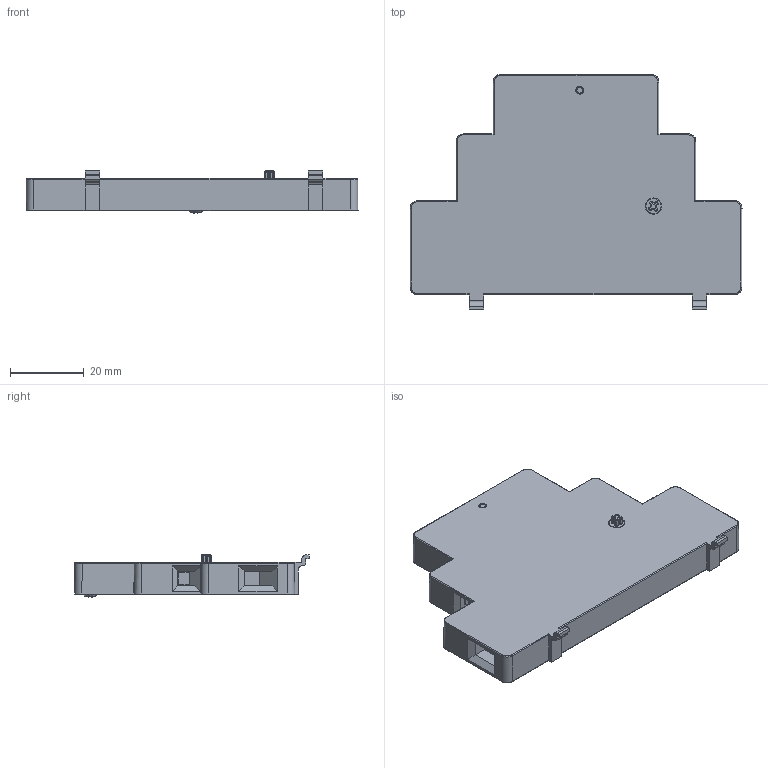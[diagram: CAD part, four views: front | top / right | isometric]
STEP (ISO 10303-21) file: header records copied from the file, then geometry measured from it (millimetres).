
FILE_DESCRIPTION (( 'STEP AP214' ), '1' );
FILE_NAME ('OD-MIG-CO1__upr1.step', '2014-09-03T08:59:02', ( '' ), ( '' ), 'SwSTEP 2.0', 'SolidWorks 2011', '' );
FILE_SCHEMA (( 'AUTOMOTIVE_DESIGN' ));
Length unit declared in the file: millimetre
Products named in the file (1): OD-MIG-CO1__upr1
Bounding box: 90 x 63.7 x 11.44 mm (x, y, z)
Volume: 35813.1 mm3; surface area: 12682.5 mm2
Topology: 1 solids, 12 shells, 702 faces, 1769 edges, 1113 vertices
Faces by surface type: plane 332, cylinder 177, bspline 108, cone 85
Entity records: 35284 total; most frequent: CARTESIAN_POINT 11483, ORIENTED_EDGE 3506, DIRECTION 3081, EDGE_CURVE 1753, VERTEX_POINT 1113, AXIS2_PLACEMENT_3D 1053, VECTOR 975, LINE 975
